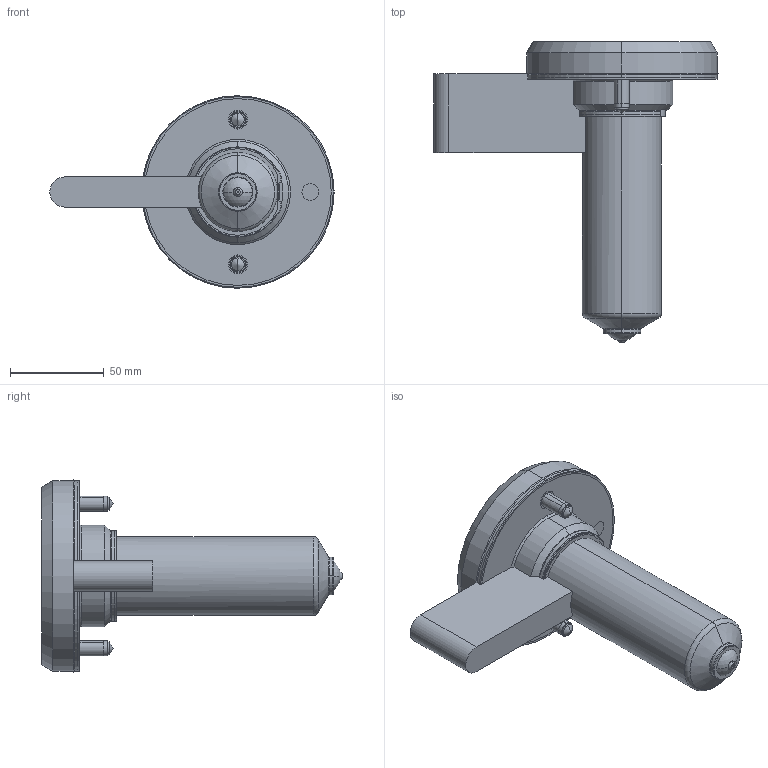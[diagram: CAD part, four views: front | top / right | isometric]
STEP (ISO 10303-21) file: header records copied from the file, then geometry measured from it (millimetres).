
FILE_DESCRIPTION (( 'STEP AP214' ), '1' );
FILE_NAME ('SOHSB16120-SOPGA16.STEP', '2024-11-28T08:53:24', ( '' ), ( '' ), 'SwSTEP 2.0', 'SolidWorks 2022', '' );
FILE_SCHEMA (( 'AUTOMOTIVE_DESIGN' ));
Length unit declared in the file: millimetre
Products named in the file (11): EcoONE-HSB16-Point Gate standard Tip Assembly_SOPGA16; EcoONE-HSB16-16004_SONH28112; EcoONE-HSB16-16005_SOTC10350-J; EcoONE-HSB16-00002(A)_SOHSBLR16; EcoONE-HSB16-Point Gate Needle Tip-Standard_SOPGN1601; EcoONE-HSB16-16003(A)_SOHSBNB16120; EcoONE-HSB16-Open Gate Bodiless Retainer Tip_SOBRT1601; EcoONE-HSB16-Open Gate Cut-out Details_Point Gate; EcoONE-HSB16-16006_SONHC16; socket head cap screw_iso_ISO 4762 M8 x 25 - 25N; SOHSB16120-SOPGA16
Assembly tree (12 placements, depth 3):
  SOHSB16120-SOPGA16
    EcoONE-HSB16-16003(A)_SOHSBNB16120
    EcoONE-HSB16-16004_SONH28112
    EcoONE-HSB16-16005_SOTC10350-J
    EcoONE-HSB16-16006_SONHC16  x2
    EcoONE-HSB16-00002(A)_SOHSBLR16
    socket head cap screw_iso_ISO 4762 M8 x 25 - 25N  x2
    EcoONE-HSB16-Point Gate standard Tip Assembly_SOPGA16
      EcoONE-HSB16-Open Gate Bodiless Retainer Tip_SOBRT1601
      EcoONE-HSB16-Point Gate Needle Tip-Standard_SOPGN1601
    EcoONE-HSB16-Open Gate Cut-out Details_Point Gate
Bounding box: 151.2 x 160 x 102.4 mm (x, y, z)
Volume: 502924.8 mm3; surface area: 126073 mm2
Topology: 11 solids, 11 shells, 513 faces, 1280 edges, 804 vertices
Faces by surface type: cylinder 156, plane 140, bspline 98, cone 83, torus 28, sphere 8
Entity records: 28603 total; most frequent: CARTESIAN_POINT 17143, ORIENTED_EDGE 2344, DIRECTION 2002, EDGE_CURVE 1172, AXIS2_PLACEMENT_3D 809, VERTEX_POINT 743, EDGE_LOOP 509, ADVANCED_FACE 470
